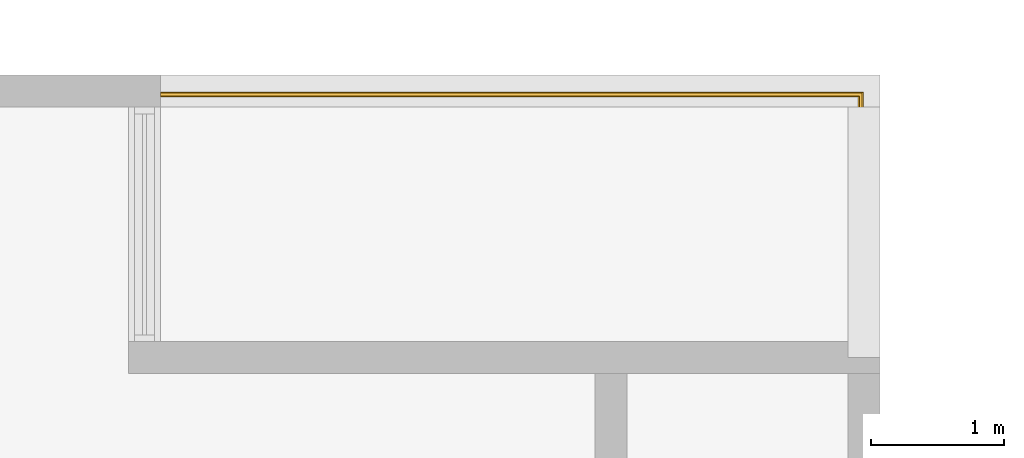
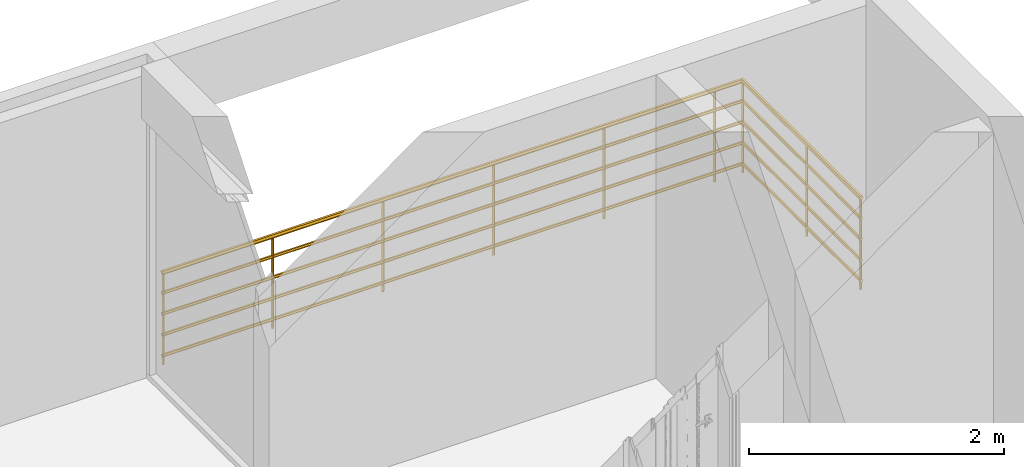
# One storey, part 15 of 16: 1 railing.
"""IFC2X3 building model written with IfcOpenShell, lengths in millimetres."""

from ifc_helpers import new_model, entity, si_unit, converted_unit, derived_unit, direction, frame, origin, place, context, subcontext, project, spatial, faceted_brep, material, element, save


model = new_model("IFC2X3")

# Units and contexts
model_context = context("Model", 3, precision=0.01, world=origin(), true_north=direction((6.12303176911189e-17, 1.0)))
body_context = subcontext(model_context, "Body", "Model", "MODEL_VIEW")
ifc_project = project(units=[si_unit("LENGTHUNIT", "METRE", prefix="MILLI"), si_unit("AREAUNIT", "SQUARE_METRE"), si_unit("VOLUMEUNIT", "CUBIC_METRE"), converted_unit("PLANEANGLEUNIT", "DEGREE", entity("IfcRatioMeasure", 0.0174532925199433), si_unit("PLANEANGLEUNIT", "RADIAN"), dimensions=[0, 0, 0, 0, 0, 0, 0]), si_unit("MASSUNIT", "GRAM", prefix="KILO"), derived_unit("MASSDENSITYUNIT", [(si_unit("MASSUNIT", "GRAM", prefix="KILO"), 1), (si_unit("LENGTHUNIT", "METRE"), -3)]), si_unit("TIMEUNIT", "SECOND"), si_unit("FREQUENCYUNIT", "HERTZ"), si_unit("THERMODYNAMICTEMPERATUREUNIT", "DEGREE_CELSIUS"), derived_unit("THERMALTRANSMITTANCEUNIT", [(si_unit("MASSUNIT", "GRAM", prefix="KILO"), 1), (si_unit("THERMODYNAMICTEMPERATUREUNIT", "KELVIN"), -1), (si_unit("TIMEUNIT", "SECOND"), -3)]), derived_unit("VOLUMETRICFLOWRATEUNIT", [(si_unit("LENGTHUNIT", "METRE"), 3), (si_unit("TIMEUNIT", "SECOND"), -1)]), si_unit("ELECTRICCURRENTUNIT", "AMPERE"), si_unit("ELECTRICVOLTAGEUNIT", "VOLT"), si_unit("POWERUNIT", "WATT"), si_unit("FORCEUNIT", "NEWTON", prefix="KILO"), si_unit("ILLUMINANCEUNIT", "LUX"), si_unit("LUMINOUSFLUXUNIT", "LUMEN"), si_unit("LUMINOUSINTENSITYUNIT", "CANDELA"), derived_unit("USERDEFINED", [(si_unit("MASSUNIT", "GRAM", prefix="KILO"), -1), (si_unit("LENGTHUNIT", "METRE"), -2), (si_unit("TIMEUNIT", "SECOND"), 3), (si_unit("LUMINOUSFLUXUNIT", "LUMEN"), 1)]), derived_unit("LINEARVELOCITYUNIT", [(si_unit("LENGTHUNIT", "METRE"), 1), (si_unit("TIMEUNIT", "SECOND"), -1)]), si_unit("PRESSUREUNIT", "PASCAL"), derived_unit("USERDEFINED", [(si_unit("LENGTHUNIT", "METRE"), -2), (si_unit("MASSUNIT", "GRAM", prefix="KILO"), 1), (si_unit("TIMEUNIT", "SECOND"), -2)])], contexts=[model_context])

# Site, building, storey
site_placement = place(None, origin())
site = spatial("IfcSite", under=ifc_project, at=site_placement, Name="表面", CompositionType="ELEMENT")
building_placement = place(site_placement, origin())
building = spatial("IfcBuilding", under=site, at=building_placement, CompositionType="ELEMENT")
storey_placement = place(building_placement, frame((0.0, 0.0, 3000.0)))
storey = spatial("IfcBuildingStorey", under=building, at=storey_placement, Name="2F", CompositionType="ELEMENT", Elevation=3000.00000000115)

# Railing
ifc_material = material(Name="不锈钢")
railing_placement = place(storey_placement, frame((-11911.8374126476, 3801.544073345, 0.0)))
element("IfcRailing", 1, at=railing_placement, inside=storey, material=ifc_material, Name="栏杆扶手:900mm 圆管", ObjectType="栏杆扶手:900mm 圆管", PredefinedType="NOTDEFINED", context=body_context, shape_type="Brep", body=[
    faceted_brep([(5244.0875, 856.587500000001, 0.0), (5256.58750000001, 844.087500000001, 0.0), (5256.58750000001, 844.087500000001, 860.0), (5244.0875, 856.587500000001, 860.0), (5269.08750000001, 856.587500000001, 0.0), (5269.08750000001, 856.587500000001, 860.0), (5256.58750000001, 869.087500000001, 860.0), (5256.58750000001, 869.087500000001, 0.0)], [[[0, 1, 2, 3]], [[2, 1, 4, 5]], [[6, 5, 4, 7]], [[6, 7, 0, 3]], [[3, 2, 5, 6]], [[0, 7, 4, 1]]]),
    faceted_brep([(5001.5875, 1844.0875, 0.0), (5014.0875, 1856.5875, 0.0), (5014.0875, 1856.5875, 860.0), (5001.5875, 1844.0875, 860.0), (5001.5875, 1869.0875, 0.0), (5001.5875, 1869.0875, 860.0), (4989.0875, 1856.5875, 860.0), (4989.0875, 1856.5875, 0.0)], [[[0, 1, 2, 3]], [[2, 1, 4, 5]], [[6, 5, 4, 7]], [[6, 7, 0, 3]], [[3, 2, 5, 6]], [[0, 7, 4, 1]]]),
    faceted_brep([(4001.5875, 1844.0875, 0.0), (4014.0875, 1856.58750000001, 0.0), (4014.0875, 1856.58750000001, 860.0), (4001.5875, 1844.0875, 860.0), (4001.5875, 1869.08750000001, 0.0), (4001.5875, 1869.08750000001, 860.0), (3989.0875, 1856.58750000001, 860.0), (3989.0875, 1856.58750000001, 0.0)], [[[0, 1, 2, 3]], [[2, 1, 4, 5]], [[6, 5, 4, 7]], [[6, 7, 0, 3]], [[3, 2, 5, 6]], [[0, 7, 4, 1]]]),
    faceted_brep([(3001.5875, 1844.08750000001, 0.0), (3014.0875, 1856.58750000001, 0.0), (3014.0875, 1856.58750000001, 860.0), (3001.5875, 1844.08750000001, 860.0), (3001.5875, 1869.08750000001, 0.0), (3001.5875, 1869.08750000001, 860.0), (2989.0875, 1856.58750000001, 860.0), (2989.0875, 1856.58750000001, 0.0)], [[[0, 1, 2, 3]], [[2, 1, 4, 5]], [[6, 5, 4, 7]], [[6, 7, 0, 3]], [[3, 2, 5, 6]], [[0, 7, 4, 1]]]),
    faceted_brep([(2001.5875, 1844.08750000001, 0.0), (2014.0875, 1856.58750000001, 0.0), (2014.0875, 1856.58750000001, 860.0), (2001.5875, 1844.08750000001, 860.0), (2001.5875, 1869.08750000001, 0.0), (2001.5875, 1869.08750000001, 860.0), (1989.0875, 1856.58750000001, 860.0), (1989.0875, 1856.58750000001, 0.0)], [[[0, 1, 2, 3]], [[2, 1, 4, 5]], [[6, 5, 4, 7]], [[6, 7, 0, 3]], [[3, 2, 5, 6]], [[0, 7, 4, 1]]]),
    faceted_brep([(1001.5875, 1844.08750000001, 0.0), (1014.0875, 1856.58750000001, 0.0), (1014.0875, 1856.58750000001, 860.0), (1001.5875, 1844.08750000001, 860.0), (1001.5875, 1869.08750000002, 0.0), (1001.5875, 1869.08750000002, 860.0), (989.087500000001, 1856.58750000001, 860.0), (989.087500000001, 1856.58750000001, 0.0)], [[[0, 1, 2, 3]], [[2, 1, 4, 5]], [[6, 5, 4, 7]], [[6, 7, 0, 3]], [[3, 2, 5, 6]], [[0, 7, 4, 1]]]),
    faceted_brep([(5256.58750000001, 1844.0875, 0.0), (5269.08750000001, 1856.5875, 0.0), (5269.08750000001, 1856.5875, 860.0), (5256.58750000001, 1844.0875, 860.0), (5256.58750000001, 1869.0875, 0.0), (5256.58750000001, 1869.0875, 860.0), (5244.08750000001, 1856.5875, 860.0), (5244.08750000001, 1856.5875, 0.0)], [[[0, 1, 2, 3]], [[2, 1, 4, 5]], [[6, 5, 4, 7]], [[6, 7, 0, 3]], [[3, 2, 5, 6]], [[0, 7, 4, 1]]]),
    faceted_brep([(5244.0875, 14.0875, 0.0), (5256.5875, 1.58750000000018, 0.0), (5256.5875, 1.58750000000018, 860.0), (5244.0875, 14.0875, 860.0), (5269.0875, 14.0875, 0.0), (5269.0875, 14.0875, 860.0), (5256.5875, 26.5874999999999, 860.0), (5256.5875, 26.5874999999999, 0.0)], [[[0, 1, 2, 3]], [[2, 1, 4, 5]], [[6, 5, 4, 7]], [[6, 7, 0, 3]], [[3, 2, 5, 6]], [[0, 7, 4, 1]]]),
    faceted_brep([(14.0875, 1844.08750000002, 0.0), (26.5874999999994, 1856.58750000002, 0.0), (26.5874999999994, 1856.58750000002, 860.0), (14.0875, 1844.08750000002, 860.0), (14.0875, 1869.08750000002, 0.0), (14.0875, 1869.08750000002, 860.0), (1.58750000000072, 1856.58750000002, 860.0), (1.58750000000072, 1856.58750000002, 0.0)], [[[0, 1, 2, 3]], [[2, 1, 4, 5]], [[6, 5, 4, 7]], [[6, 7, 0, 3]], [[3, 2, 5, 6]], [[0, 7, 4, 1]]]),
    faceted_brep([(1.58750000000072, 1866.58750000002, 862.679491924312), (1.58750000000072, 1861.58750000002, 862.679491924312), (1.58750000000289, 1856.58750000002, 862.679491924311), (1.58750000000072, 1851.58750000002, 862.679491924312), (1.58750000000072, 1846.58750000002, 862.679491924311), (1.58750000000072, 1844.08750000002, 867.009618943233), (1.58750000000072, 1841.58750000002, 871.339745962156), (1.58750000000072, 1839.74511178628, 874.530855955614), (1.58750000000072, 1836.58750000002, 880.0), (1.58750000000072, 1839.74511178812, 885.469144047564), (1.58750000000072, 1842.90272357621, 890.938288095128), (1.58749999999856, 1844.74511178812, 894.129398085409), (1.58750000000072, 1846.58750000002, 897.320508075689), (1.58750000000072, 1851.58750000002, 897.320508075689), (1.58750000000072, 1856.58750000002, 897.320508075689), (1.58750000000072, 1861.58750000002, 897.320508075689), (1.58750000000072, 1866.58750000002, 897.320508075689), (1.58750000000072, 1869.08750000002, 892.990381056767), (1.58750000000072, 1871.58750000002, 888.660254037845), (1.58750000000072, 1874.08750000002, 884.330127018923), (1.58750000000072, 1876.58750000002, 880.0), (1.58750000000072, 1874.08750000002, 875.669872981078), (1.58750000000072, 1871.58750000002, 871.339745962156), (1.58750000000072, 1869.08750000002, 867.009618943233), (5276.58750000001, 1876.5875, 880.0), (5274.36664988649, 1874.36664988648, 876.153374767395), (5273.42988884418, 1873.42988884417, 874.530857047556), (5272.14579977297, 1872.14579977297, 872.306749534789), (5271.58750000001, 1871.5875, 871.339745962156), (5269.36664988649, 1869.36664988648, 867.49312072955), (5269.08750000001, 1869.0875, 867.009618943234), (5266.58750000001, 1866.5875, 862.679491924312), (5246.58750000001, 1846.5875, 862.679491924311), (5244.08750000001, 1844.0875, 867.009618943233), (5241.58750000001, 1841.5875, 871.339745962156), (5239.08750000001, 1839.0875, 875.669872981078), (5236.58750000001, 1836.5875, 880.0), (5251.58750000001, 1851.5875, 862.679491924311), (5256.58750000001, 1856.5875, 862.679491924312), (5261.58750000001, 1861.5875, 862.679491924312), (5266.5875, 1.58750000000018, 862.679491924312), (5261.5875, 1.58750000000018, 862.679491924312), (5256.5875, 1.58750000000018, 862.679491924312), (5251.5875, 1.58750000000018, 862.679491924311), (5246.5875, 1.58750000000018, 862.679491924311), (5261.58750000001, 1861.5875, 897.320508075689), (5266.58750000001, 1866.5875, 897.320508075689), (5256.58750000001, 1856.5875, 897.320508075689), (5266.5875, 1.58750000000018, 897.320508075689), (5261.58750000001, 1.58750000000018, 897.320508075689), (5256.5875, 1.58750000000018, 897.320508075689), (5251.58750000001, 1851.5875, 897.320508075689), (5246.58750000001, 1846.5875, 897.320508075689), (5251.5875, 1.58750000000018, 897.320508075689), (5246.5875, 1.58750000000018, 897.320508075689), (5239.08750000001, 1839.0875, 884.330127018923), (5241.58750000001, 1841.5875, 888.660254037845), (5244.08750000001, 1844.0875, 892.990381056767), (5268.42988884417, 1868.42988884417, 894.129396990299), (5269.08750000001, 1869.0875, 892.990381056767), (5270.27227768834, 1870.27227768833, 890.938285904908), (5271.58750000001, 1871.5875, 888.660254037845), (5273.42988884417, 1873.42988884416, 885.469142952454), (5274.36664988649, 1874.36664988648, 883.846625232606), (5243.8083536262, 1.58750000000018, 892.506885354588), (5241.02920725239, 1.58750000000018, 887.693262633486), (5238.8083536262, 1.58750000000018, 883.846631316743), (5236.5875, 1.58750000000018, 880.0), (5238.80835362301, 1.58750000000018, 876.153368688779), (5241.5875, 1.58750000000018, 871.339745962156), (5244.0875, 1.58750000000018, 867.009618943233), (5269.0875, 1.58750000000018, 867.009618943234), (5271.5875, 1.58750000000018, 871.339745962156), (5274.0875, 1.58750000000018, 875.669872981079), (5276.5875, 1.58750000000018, 880.0), (5274.0875, 1.58750000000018, 884.330127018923), (5271.5875, 1.58750000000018, 888.660254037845), (5269.0875, 1.58750000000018, 892.990381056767)], [[[0, 1, 2, 3, 4, 5, 6, 7, 8, 9, 10, 11, 12, 13, 14, 15, 16, 17, 18, 19, 20, 21, 22, 23]], [[24, 25, 26, 27, 28, 29, 30, 31, 0, 23, 22, 21, 20]], [[6, 5, 4, 32, 33, 34, 35, 36, 8, 7]], [[2, 37, 3]], [[38, 37, 2]], [[2, 1, 38]], [[38, 1, 39]], [[0, 39, 1]], [[0, 31, 39]], [[40, 39, 31]], [[39, 40, 41]], [[41, 38, 39]], [[41, 42, 38]], [[38, 42, 37]], [[42, 43, 37]], [[43, 32, 37]], [[44, 32, 43]], [[32, 4, 3]], [[32, 3, 37]], [[45, 16, 15]], [[46, 16, 45]], [[47, 45, 15]], [[45, 48, 46]], [[48, 45, 49]], [[45, 47, 49]], [[50, 49, 47]], [[14, 47, 15]], [[14, 51, 47]], [[51, 14, 13]], [[13, 52, 51]], [[13, 12, 52]], [[51, 52, 53]], [[52, 54, 53]], [[50, 51, 53]], [[51, 50, 47]], [[8, 36, 55, 56, 57, 52, 12, 11, 10, 9]], [[19, 18, 17, 16, 46, 58, 59, 60, 61, 62, 63, 24, 20]], [[54, 64, 65, 66, 67, 68, 69, 70, 44, 43, 42, 41, 40, 71, 72, 73, 74, 75, 76, 77, 48, 49, 50, 53]], [[72, 71, 40, 31, 30, 29, 28, 27, 26, 25, 24, 74, 73]], [[70, 69, 68, 67, 36, 35, 34, 33, 32, 44]], [[56, 55, 36, 67, 66, 65, 64, 54, 52, 57]], [[77, 76, 75, 74, 24, 63, 62, 61, 60, 59, 58, 46, 48]]]),
    faceted_brep([(1.58750000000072, 1871.58750000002, 685.0), (1.58750000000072, 1869.52128994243, 681.421219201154), (1.58750000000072, 1867.83750000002, 678.504809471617), (1.58750000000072, 1865.96250000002, 675.257214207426), (1.58750000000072, 1864.08750000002, 672.009618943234), (1.58750000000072, 1860.33750000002, 672.009618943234), (1.58750000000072, 1856.58750000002, 672.009618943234), (1.58749999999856, 1852.83750000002, 672.009618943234), (1.58750000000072, 1849.08750000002, 672.009618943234), (1.58750000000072, 1847.21250000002, 675.257214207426), (1.58750000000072, 1845.33750000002, 678.504809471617), (1.58750000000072, 1843.6537100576, 681.421219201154), (1.58750000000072, 1841.58750000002, 685.0), (1.58750000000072, 1843.65371005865, 688.578780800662), (1.58750000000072, 1845.71992011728, 692.157561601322), (1.58750000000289, 1847.40371005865, 695.073971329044), (1.58750000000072, 1849.08750000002, 697.990381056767), (1.58750000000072, 1852.83750000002, 697.990381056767), (1.58750000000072, 1856.58750000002, 697.990381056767), (1.58750000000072, 1860.33750000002, 697.990381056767), (1.58750000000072, 1864.08750000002, 697.990381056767), (1.58750000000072, 1865.96250000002, 694.742785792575), (1.58750000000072, 1867.83750000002, 691.495190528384), (1.58750000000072, 1869.71250000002, 688.247595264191), (5271.58750000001, 1871.5875, 685.0), (5270.1411576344, 1870.14115763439, 682.494861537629), (5269.52129017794, 1869.52129017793, 681.421219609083), (5268.69481526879, 1868.69481526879, 679.989723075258), (5267.45508035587, 1867.45508035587, 677.842439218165), (5266.3911576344, 1866.39115763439, 675.999671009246), (5265.77129017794, 1865.77129017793, 674.926029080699), (5264.08750000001, 1864.0875, 672.009618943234), (5249.08750000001, 1849.0875, 672.009618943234), (5247.21250000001, 1847.2125, 675.257214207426), (5245.33750000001, 1845.3375, 678.504809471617), (5243.46250000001, 1843.4625, 681.752404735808), (5241.58750000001, 1841.5875, 685.0), (5252.83750000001, 1852.8375, 672.009618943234), (5252.8375, 1.58750000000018, 672.009618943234), (5249.0875, 1.58750000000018, 672.009618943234), (5256.58750000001, 1856.5875, 672.009618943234), (5260.33750000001, 1860.3375, 672.009618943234), (5264.0875, 1.58750000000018, 672.009618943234), (5260.33750000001, 1.58750000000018, 672.009618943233), (5256.5875, 1.58750000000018, 672.009618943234), (5260.33750000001, 1860.3375, 697.990381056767), (5264.08750000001, 1864.0875, 697.990381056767), (5256.58750000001, 1856.5875, 697.990381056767), (5264.0875, 1.58750000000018, 697.990381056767), (5260.3375, 1.58750000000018, 697.990381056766), (5256.5875, 1.58750000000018, 697.990381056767), (5252.83750000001, 1852.8375, 697.990381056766), (5249.08750000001, 1849.0875, 697.990381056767), (5252.8375, 1.58750000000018, 697.990381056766), (5249.0875, 1.58750000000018, 697.990381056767), (5245.33750000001, 1845.3375, 691.495190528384), (5247.21250000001, 1847.2125, 694.742785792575), (5243.46250000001, 1843.4625, 688.247595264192), (5243.65370982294, 1843.65370982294, 688.578780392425), (5265.96250000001, 1865.9625, 694.742785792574), (5267.83750000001, 1867.8375, 691.495190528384), (5269.52129017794, 1869.52129017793, 688.578780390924), (5270.1411576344, 1870.14115763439, 687.505138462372), (5241.5875, 1.58750000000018, 685.0), (5243.03384365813, 1.58750000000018, 682.494859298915), (5245.3375, 1.58750000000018, 678.504809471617), (5247.2125, 1.58750000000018, 675.257214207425), (5265.9625, 1.58750000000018, 675.257214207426), (5267.8375, 1.58750000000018, 678.504809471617), (5269.7125, 1.58750000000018, 681.752404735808), (5271.5875, 1.58750000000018, 685.0), (5269.7125, 1.58750000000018, 688.247595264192), (5267.8375, 1.58750000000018, 691.495190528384), (5265.9625, 1.58750000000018, 694.742785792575), (5246.78384365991, 1.58750000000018, 694.000331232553), (5244.48018731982, 1.58750000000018, 690.01028140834), (5243.03384365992, 1.58750000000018, 687.50514070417)], [[[0, 1, 2, 3, 4, 5, 6, 7, 8, 9, 10, 11, 12, 13, 14, 15, 16, 17, 18, 19, 20, 21, 22, 23]], [[4, 3, 2, 1, 0, 24, 25, 26, 27, 28, 29, 30, 31]], [[10, 9, 8, 32, 33, 34, 35, 36, 12, 11]], [[32, 7, 37]], [[32, 8, 7]], [[38, 32, 37]], [[39, 32, 38]], [[6, 37, 7]], [[40, 37, 6]], [[6, 5, 40]], [[40, 5, 41]], [[4, 41, 5]], [[4, 31, 41]], [[42, 41, 31]], [[41, 42, 43]], [[43, 40, 41]], [[43, 44, 40]], [[40, 44, 37]], [[44, 38, 37]], [[45, 20, 19]], [[46, 20, 45]], [[47, 45, 19]], [[45, 48, 46]], [[48, 45, 49]], [[45, 47, 49]], [[50, 49, 47]], [[18, 47, 19]], [[18, 51, 47]], [[51, 18, 17]], [[17, 52, 51]], [[17, 16, 52]], [[51, 52, 53]], [[52, 54, 53]], [[50, 51, 53]], [[51, 50, 47]], [[55, 56, 52, 16, 15, 14, 13, 12, 36, 57, 58]], [[22, 21, 20, 46, 59, 60, 61, 62, 24, 0, 23]], [[63, 64, 65, 66, 39, 38, 44, 43, 42, 67, 68, 69, 70, 71, 72, 73, 48, 49, 50, 53, 54, 74, 75, 76]], [[31, 30, 29, 28, 27, 26, 25, 24, 70, 69, 68, 67, 42]], [[34, 33, 32, 39, 66, 65, 64, 63, 36, 35]], [[54, 52, 56, 55, 58, 57, 36, 63, 76, 75, 74]], [[73, 72, 71, 70, 24, 62, 61, 60, 59, 46, 48]]]),
    faceted_brep([(1.58750000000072, 1871.58750000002, 485.0), (1.58750000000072, 1869.52128994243, 481.421219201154), (1.58750000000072, 1867.83750000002, 478.504809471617), (1.58750000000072, 1865.96250000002, 475.257214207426), (1.58750000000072, 1864.08750000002, 472.009618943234), (1.58750000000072, 1860.33750000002, 472.009618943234), (1.58750000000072, 1856.58750000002, 472.009618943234), (1.58749999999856, 1852.83750000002, 472.009618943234), (1.58750000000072, 1849.08750000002, 472.009618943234), (1.58750000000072, 1847.21250000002, 475.257214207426), (1.58750000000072, 1845.33750000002, 478.504809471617), (1.58750000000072, 1843.6537100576, 481.421219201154), (1.58750000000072, 1841.58750000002, 485.0), (1.58750000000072, 1843.65371005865, 488.578780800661), (1.58750000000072, 1845.71992011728, 492.157561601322), (1.58750000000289, 1847.40371005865, 495.073971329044), (1.58750000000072, 1849.08750000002, 497.990381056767), (1.58750000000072, 1852.83750000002, 497.990381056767), (1.58750000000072, 1856.58750000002, 497.990381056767), (1.58750000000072, 1860.33750000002, 497.990381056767), (1.58750000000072, 1864.08750000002, 497.990381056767), (1.58750000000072, 1865.96250000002, 494.742785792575), (1.58750000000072, 1867.83750000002, 491.495190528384), (1.58750000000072, 1869.71250000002, 488.247595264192), (5271.58750000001, 1871.5875, 485.0), (5270.1411576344, 1870.14115763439, 482.494861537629), (5269.52129017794, 1869.52129017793, 481.421219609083), (5268.69481526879, 1868.69481526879, 479.989723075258), (5267.45508035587, 1867.45508035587, 477.842439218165), (5266.3911576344, 1866.39115763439, 475.999671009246), (5265.77129017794, 1865.77129017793, 474.926029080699), (5264.08750000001, 1864.0875, 472.009618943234), (5249.08750000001, 1849.0875, 472.009618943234), (5247.21250000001, 1847.2125, 475.257214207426), (5245.33750000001, 1845.3375, 478.504809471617), (5243.46250000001, 1843.4625, 481.752404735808), (5241.58750000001, 1841.5875, 485.0), (5252.83750000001, 1852.8375, 472.009618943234), (5252.8375, 1.58750000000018, 472.009618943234), (5249.0875, 1.58750000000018, 472.009618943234), (5256.58750000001, 1856.5875, 472.009618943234), (5260.33750000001, 1860.3375, 472.009618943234), (5264.0875, 1.58750000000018, 472.009618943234), (5260.33750000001, 1.58750000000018, 472.009618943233), (5256.5875, 1.58750000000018, 472.009618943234), (5260.33750000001, 1860.3375, 497.990381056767), (5264.08750000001, 1864.0875, 497.990381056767), (5256.58750000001, 1856.5875, 497.990381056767), (5264.0875, 1.58750000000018, 497.990381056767), (5260.3375, 1.58750000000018, 497.990381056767), (5256.5875, 1.58750000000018, 497.990381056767), (5252.83750000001, 1852.8375, 497.990381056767), (5249.08750000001, 1849.0875, 497.990381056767), (5252.8375, 1.58750000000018, 497.990381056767), (5249.0875, 1.58750000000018, 497.990381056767), (5245.33750000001, 1845.3375, 491.495190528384), (5247.21250000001, 1847.2125, 494.742785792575), (5243.46250000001, 1843.4625, 488.247595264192), (5243.65370982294, 1843.65370982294, 488.578780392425), (5265.96250000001, 1865.9625, 494.742785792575), (5267.83750000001, 1867.8375, 491.495190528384), (5269.52129017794, 1869.52129017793, 488.578780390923), (5270.1411576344, 1870.14115763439, 487.505138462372), (5241.5875, 1.58750000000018, 485.0), (5243.03384365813, 1.58750000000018, 482.494859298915), (5245.3375, 1.58750000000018, 478.504809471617), (5247.2125, 1.58750000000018, 475.257214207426), (5265.9625, 1.58750000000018, 475.257214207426), (5267.8375, 1.58750000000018, 478.504809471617), (5269.7125, 1.58750000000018, 481.752404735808), (5271.5875, 1.58750000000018, 485.0), (5269.7125, 1.58750000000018, 488.247595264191), (5267.8375, 1.58750000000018, 491.495190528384), (5265.9625, 1.58750000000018, 494.742785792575), (5246.78384365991, 1.58750000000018, 494.000331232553), (5244.48018731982, 1.58750000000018, 490.01028140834), (5243.03384365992, 1.58750000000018, 487.50514070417)], [[[0, 1, 2, 3, 4, 5, 6, 7, 8, 9, 10, 11, 12, 13, 14, 15, 16, 17, 18, 19, 20, 21, 22, 23]], [[4, 3, 2, 1, 0, 24, 25, 26, 27, 28, 29, 30, 31]], [[10, 9, 8, 32, 33, 34, 35, 36, 12, 11]], [[32, 7, 37]], [[32, 8, 7]], [[38, 32, 37]], [[39, 32, 38]], [[6, 37, 7]], [[40, 37, 6]], [[6, 5, 40]], [[40, 5, 41]], [[4, 41, 5]], [[4, 31, 41]], [[42, 41, 31]], [[41, 42, 43]], [[43, 40, 41]], [[43, 44, 40]], [[40, 44, 37]], [[44, 38, 37]], [[45, 20, 19]], [[46, 20, 45]], [[47, 45, 19]], [[45, 48, 46]], [[48, 45, 49]], [[45, 47, 49]], [[50, 49, 47]], [[18, 47, 19]], [[18, 51, 47]], [[51, 18, 17]], [[17, 52, 51]], [[17, 16, 52]], [[51, 52, 53]], [[52, 54, 53]], [[50, 51, 53]], [[51, 50, 47]], [[55, 56, 52, 16, 15, 14, 13, 12, 36, 57, 58]], [[22, 21, 20, 46, 59, 60, 61, 62, 24, 0, 23]], [[63, 64, 65, 66, 39, 38, 44, 43, 42, 67, 68, 69, 70, 71, 72, 73, 48, 49, 50, 53, 54, 74, 75, 76]], [[31, 30, 29, 28, 27, 26, 25, 24, 70, 69, 68, 67, 42]], [[34, 33, 32, 39, 66, 65, 64, 63, 36, 35]], [[54, 52, 56, 55, 58, 57, 36, 63, 76, 75, 74]], [[73, 72, 71, 70, 24, 62, 61, 60, 59, 46, 48]]]),
    faceted_brep([(1.58750000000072, 1871.58750000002, 285.0), (1.58750000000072, 1869.52128994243, 281.421219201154), (1.58750000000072, 1867.83750000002, 278.504809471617), (1.58750000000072, 1865.96250000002, 275.257214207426), (1.58750000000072, 1864.08750000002, 272.009618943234), (1.58750000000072, 1860.33750000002, 272.009618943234), (1.58750000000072, 1856.58750000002, 272.009618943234), (1.58749999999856, 1852.83750000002, 272.009618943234), (1.58750000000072, 1849.08750000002, 272.009618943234), (1.58750000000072, 1847.21250000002, 275.257214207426), (1.58750000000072, 1845.33750000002, 278.504809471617), (1.58750000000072, 1843.6537100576, 281.421219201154), (1.58750000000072, 1841.58750000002, 285.0), (1.58750000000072, 1843.65371005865, 288.578780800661), (1.58750000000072, 1845.71992011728, 292.157561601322), (1.58750000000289, 1847.40371005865, 295.073971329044), (1.58750000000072, 1849.08750000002, 297.990381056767), (1.58750000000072, 1852.83750000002, 297.990381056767), (1.58750000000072, 1856.58750000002, 297.990381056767), (1.58750000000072, 1860.33750000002, 297.990381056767), (1.58750000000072, 1864.08750000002, 297.990381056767), (1.58750000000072, 1865.96250000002, 294.742785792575), (1.58750000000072, 1867.83750000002, 291.495190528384), (1.58750000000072, 1869.71250000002, 288.247595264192), (5271.58750000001, 1871.5875, 285.0), (5270.1411576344, 1870.14115763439, 282.494861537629), (5269.52129017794, 1869.52129017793, 281.421219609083), (5268.69481526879, 1868.69481526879, 279.989723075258), (5267.45508035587, 1867.45508035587, 277.842439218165), (5266.3911576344, 1866.39115763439, 275.999671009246), (5265.77129017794, 1865.77129017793, 274.926029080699), (5264.08750000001, 1864.0875, 272.009618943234), (5249.08750000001, 1849.0875, 272.009618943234), (5247.21250000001, 1847.2125, 275.257214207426), (5245.33750000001, 1845.3375, 278.504809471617), (5243.46250000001, 1843.4625, 281.752404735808), (5241.58750000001, 1841.5875, 285.0), (5252.83750000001, 1852.8375, 272.009618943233), (5252.8375, 1.58750000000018, 272.009618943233), (5249.0875, 1.58750000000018, 272.009618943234), (5256.58750000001, 1856.5875, 272.009618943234), (5260.33750000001, 1860.3375, 272.009618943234), (5264.0875, 1.58750000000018, 272.009618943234), (5260.33750000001, 1.58750000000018, 272.009618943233), (5256.5875, 1.58750000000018, 272.009618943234), (5260.33750000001, 1860.3375, 297.990381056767), (5264.08750000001, 1864.0875, 297.990381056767), (5256.58750000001, 1856.5875, 297.990381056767), (5264.0875, 1.58750000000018, 297.990381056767), (5260.3375, 1.58750000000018, 297.990381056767), (5256.5875, 1.58750000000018, 297.990381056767), (5252.83750000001, 1852.8375, 297.990381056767), (5249.08750000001, 1849.0875, 297.990381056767), (5252.8375, 1.58750000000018, 297.990381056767), (5249.0875, 1.58750000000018, 297.990381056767), (5245.33750000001, 1845.3375, 291.495190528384), (5247.21250000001, 1847.2125, 294.742785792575), (5243.46250000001, 1843.4625, 288.247595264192), (5243.65370982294, 1843.65370982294, 288.578780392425), (5265.96250000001, 1865.9625, 294.742785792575), (5267.83750000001, 1867.8375, 291.495190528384), (5269.52129017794, 1869.52129017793, 288.578780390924), (5270.1411576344, 1870.14115763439, 287.505138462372), (5241.5875, 1.58750000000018, 285.0), (5243.03384365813, 1.58750000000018, 282.494859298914), (5245.3375, 1.58750000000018, 278.504809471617), (5247.2125, 1.58750000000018, 275.257214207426), (5265.9625, 1.58750000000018, 275.257214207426), (5267.8375, 1.58750000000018, 278.504809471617), (5269.7125, 1.58750000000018, 281.752404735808), (5271.5875, 1.58750000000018, 285.0), (5269.7125, 1.58750000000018, 288.247595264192), (5267.8375, 1.58750000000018, 291.495190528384), (5265.9625, 1.58750000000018, 294.742785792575), (5246.78384365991, 1.58750000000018, 294.000331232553), (5244.48018731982, 1.58750000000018, 290.01028140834), (5243.03384365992, 1.58750000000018, 287.50514070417)], [[[0, 1, 2, 3, 4, 5, 6, 7, 8, 9, 10, 11, 12, 13, 14, 15, 16, 17, 18, 19, 20, 21, 22, 23]], [[4, 3, 2, 1, 0, 24, 25, 26, 27, 28, 29, 30, 31]], [[10, 9, 8, 32, 33, 34, 35, 36, 12, 11]], [[32, 7, 37]], [[32, 8, 7]], [[38, 32, 37]], [[39, 32, 38]], [[6, 37, 7]], [[40, 37, 6]], [[6, 5, 40]], [[40, 5, 41]], [[4, 41, 5]], [[4, 31, 41]], [[42, 41, 31]], [[41, 42, 43]], [[43, 40, 41]], [[43, 44, 40]], [[40, 44, 37]], [[44, 38, 37]], [[45, 20, 19]], [[46, 20, 45]], [[47, 45, 19]], [[45, 48, 46]], [[48, 45, 49]], [[45, 47, 49]], [[50, 49, 47]], [[18, 47, 19]], [[18, 51, 47]], [[51, 18, 17]], [[17, 52, 51]], [[17, 16, 52]], [[51, 52, 53]], [[52, 54, 53]], [[50, 51, 53]], [[51, 50, 47]], [[55, 56, 52, 16, 15, 14, 13, 12, 36, 57, 58]], [[22, 21, 20, 46, 59, 60, 61, 62, 24, 0, 23]], [[63, 64, 65, 66, 39, 38, 44, 43, 42, 67, 68, 69, 70, 71, 72, 73, 48, 49, 50, 53, 54, 74, 75, 76]], [[31, 30, 29, 28, 27, 26, 25, 24, 70, 69, 68, 67, 42]], [[34, 33, 32, 39, 66, 65, 64, 63, 36, 35]], [[54, 52, 56, 55, 58, 57, 36, 63, 76, 75, 74]], [[73, 72, 71, 70, 24, 62, 61, 60, 59, 46, 48]]]),
    faceted_brep([(1.58750000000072, 1871.58750000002, 85.0), (1.58750000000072, 1869.52128994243, 81.4212192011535), (1.58750000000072, 1867.83750000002, 78.5048094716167), (1.58750000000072, 1865.96250000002, 75.2572142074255), (1.58750000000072, 1864.08750000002, 72.0096189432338), (1.58750000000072, 1860.33750000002, 72.0096189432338), (1.58750000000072, 1856.58750000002, 72.0096189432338), (1.58749999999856, 1852.83750000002, 72.0096189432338), (1.58750000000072, 1849.08750000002, 72.0096189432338), (1.58750000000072, 1847.21250000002, 75.257214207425), (1.58750000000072, 1845.33750000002, 78.5048094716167), (1.58750000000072, 1843.6537100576, 81.4212192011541), (1.58750000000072, 1841.58750000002, 85.0), (1.58750000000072, 1843.65371005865, 88.5787808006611), (1.58750000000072, 1845.71992011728, 92.1575616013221), (1.58750000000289, 1847.40371005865, 95.0739713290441), (1.58750000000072, 1849.08750000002, 97.9903810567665), (1.58750000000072, 1852.83750000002, 97.9903810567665), (1.58750000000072, 1856.58750000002, 97.9903810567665), (1.58750000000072, 1860.33750000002, 97.9903810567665), (1.58750000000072, 1864.08750000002, 97.9903810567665), (1.58750000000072, 1865.96250000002, 94.7427857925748), (1.58750000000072, 1867.83750000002, 91.4951905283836), (1.58750000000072, 1869.71250000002, 88.2475952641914), (5271.58750000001, 1871.5875, 85.0), (5270.1411576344, 1870.14115763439, 82.4948615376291), (5269.52129017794, 1869.52129017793, 81.4212196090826), (5268.69481526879, 1868.69481526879, 79.989723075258), (5267.45508035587, 1867.45508035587, 77.842439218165), (5266.3911576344, 1866.39115763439, 75.9996710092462), (5265.77129017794, 1865.77129017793, 74.9260290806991), (5264.08750000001, 1864.0875, 72.0096189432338), (5249.08750000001, 1849.0875, 72.0096189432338), (5247.21250000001, 1847.2125, 75.2572142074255), (5245.33750000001, 1845.3375, 78.5048094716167), (5243.46250000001, 1843.4625, 81.7524047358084), (5241.58750000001, 1841.5875, 85.0), (5252.83750000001, 1852.8375, 72.0096189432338), (5252.8375, 1.58750000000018, 72.0096189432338), (5249.0875, 1.58750000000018, 72.0096189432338), (5256.58750000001, 1856.5875, 72.0096189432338), (5260.33750000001, 1860.3375, 72.0096189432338), (5264.0875, 1.58750000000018, 72.0096189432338), (5260.33750000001, 1.58750000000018, 72.0096189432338), (5256.5875, 1.58750000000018, 72.0096189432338), (5260.33750000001, 1860.3375, 97.9903810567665), (5264.08750000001, 1864.0875, 97.9903810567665), (5256.58750000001, 1856.5875, 97.9903810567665), (5264.0875, 1.58750000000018, 97.9903810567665), (5260.3375, 1.58750000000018, 97.9903810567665), (5256.5875, 1.58750000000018, 97.9903810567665), (5252.83750000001, 1852.8375, 97.9903810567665), (5249.08750000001, 1849.0875, 97.9903810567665), (5252.8375, 1.58750000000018, 97.9903810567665), (5249.0875, 1.58750000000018, 97.9903810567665), (5245.33750000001, 1845.3375, 91.4951905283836), (5247.21250000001, 1847.2125, 94.7427857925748), (5243.46250000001, 1843.4625, 88.2475952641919), (5243.65370982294, 1843.65370982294, 88.5787803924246), (5265.96250000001, 1865.9625, 94.7427857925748), (5267.83750000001, 1867.8375, 91.4951905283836), (5269.52129017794, 1869.52129017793, 88.5787803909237), (5270.1411576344, 1870.14115763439, 87.5051384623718), (5241.5875, 1.58750000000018, 85.0), (5243.03384365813, 1.58750000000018, 82.494859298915), (5245.3375, 1.58750000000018, 78.5048094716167), (5247.2125, 1.58750000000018, 75.2572142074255), (5265.9625, 1.58750000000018, 75.2572142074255), (5267.8375, 1.58750000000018, 78.5048094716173), (5269.7125, 1.58750000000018, 81.7524047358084), (5271.5875, 1.58750000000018, 85.0), (5269.7125, 1.58750000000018, 88.2475952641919), (5267.8375, 1.58750000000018, 91.4951905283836), (5265.9625, 1.58750000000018, 94.7427857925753), (5246.78384365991, 1.58750000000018, 94.0003312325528), (5244.48018731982, 1.58750000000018, 90.0102814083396), (5243.03384365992, 1.58750000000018, 87.5051407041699)], [[[0, 1, 2, 3, 4, 5, 6, 7, 8, 9, 10, 11, 12, 13, 14, 15, 16, 17, 18, 19, 20, 21, 22, 23]], [[4, 3, 2, 1, 0, 24, 25, 26, 27, 28, 29, 30, 31]], [[10, 9, 8, 32, 33, 34, 35, 36, 12, 11]], [[32, 7, 37]], [[32, 8, 7]], [[38, 32, 37]], [[39, 32, 38]], [[6, 37, 7]], [[40, 37, 6]], [[6, 5, 40]], [[40, 5, 41]], [[4, 41, 5]], [[4, 31, 41]], [[42, 41, 31]], [[41, 42, 43]], [[43, 40, 41]], [[43, 44, 40]], [[40, 44, 37]], [[44, 38, 37]], [[45, 20, 19]], [[46, 20, 45]], [[47, 45, 19]], [[45, 48, 46]], [[48, 45, 49]], [[45, 47, 49]], [[50, 49, 47]], [[18, 47, 19]], [[18, 51, 47]], [[51, 18, 17]], [[17, 52, 51]], [[17, 16, 52]], [[51, 52, 53]], [[52, 54, 53]], [[50, 51, 53]], [[51, 50, 47]], [[55, 56, 52, 16, 15, 14, 13, 12, 36, 57, 58]], [[22, 21, 20, 46, 59, 60, 61, 62, 24, 0, 23]], [[63, 64, 65, 66, 39, 38, 44, 43, 42, 67, 68, 69, 70, 71, 72, 73, 48, 49, 50, 53, 54, 74, 75, 76]], [[31, 30, 29, 28, 27, 26, 25, 24, 70, 69, 68, 67, 42]], [[34, 33, 32, 39, 66, 65, 64, 63, 36, 35]], [[54, 52, 56, 55, 58, 57, 36, 63, 76, 75, 74]], [[73, 72, 71, 70, 24, 62, 61, 60, 59, 46, 48]]]),
])

save(model, "model.ifc")
